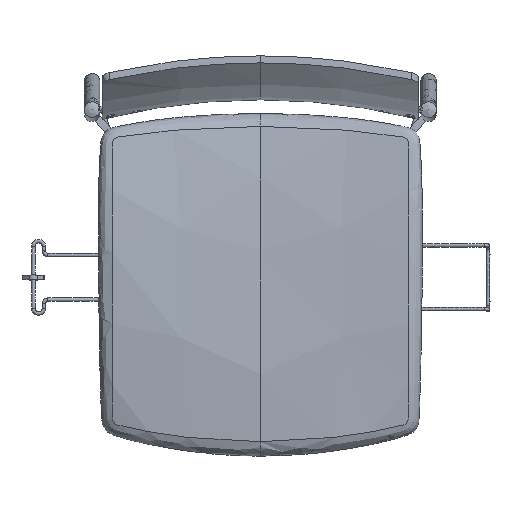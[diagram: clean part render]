
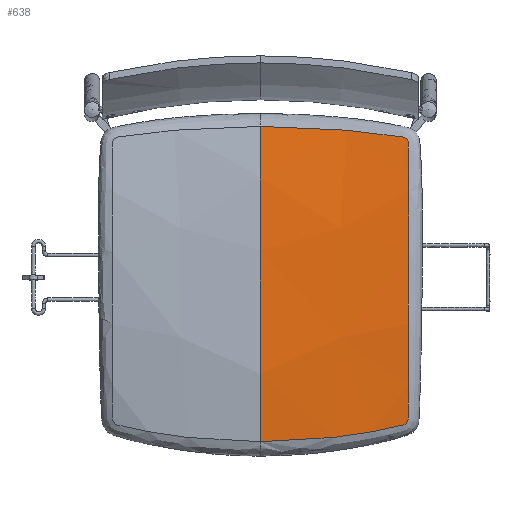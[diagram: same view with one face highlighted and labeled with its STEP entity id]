
A CAD part, top view. The second image highlights one B-rep face of the part: STEP entity #638.
In plain terms, the highlighted free-form (B-spline) face has degree [3, 3] with [6, 5] control points.
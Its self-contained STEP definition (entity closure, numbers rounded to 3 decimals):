
#27=B_SPLINE_SURFACE_WITH_KNOTS('',3,3,((#8044,#8045,#8046,#8047,#8048),
(#8049,#8050,#8051,#8052,#8053),(#8054,#8055,#8056,#8057,#8058),(#8059,
#8060,#8061,#8062,#8063),(#8064,#8065,#8066,#8067,#8068),(#8069,#8070,#8071,
#8072,#8073)),.UNSPECIFIED.,.F.,.F.,.F.,(4,1,1,4),(4,1,4),(0.,150.405,
300.811,451.216),(0.,113.023,226.045),
 .UNSPECIFIED.);
#139=B_SPLINE_CURVE_WITH_KNOTS('',3,(#8672,#8673,#8674,#8675,#8676,#8677),
 .UNSPECIFIED.,.F.,.F.,(4,1,1,4),(14.636,150.405,300.811,
436.736),.UNSPECIFIED.);
#142=B_SPLINE_CURVE_WITH_KNOTS('',3,(#8748,#8749,#8750,#8751,#8752,#8753,
#8754,#8755,#8756,#8757,#8758,#8759,#8760,#8761,#8762,#8763,#8764,#8765,
#8766,#8767,#8768,#8769,#8770,#8771,#8772,#8773,#8774,#8775,#8776,#8777,
#8778,#8779,#8780,#8781,#8782,#8783,#8784,#8785,#8786,#8787,#8788,#8789,
#8790,#8791,#8792,#8793,#8794,#8795,#8796,#8797,#8798,#8799,#8800,#8801,
#8802,#8803,#8804,#8805,#8806,#8807,#8808,#8809,#8810,#8811,#8812,#8813),
 .UNSPECIFIED.,.F.,.F.,(4,2,2,2,1,1,1,2,2,2,2,2,1,1,1,2,2,2,2,2,2,2,2,2,
1,1,1,2,2,2,2,2,1,1,1,2,2,2,4),(-834.547,-732.977,-707.585,
-682.192,-634.077,-631.407,-628.738,
-626.069,-623.399,-620.73,-618.061,
-615.391,-612.722,-610.053,-607.384,
-561.831,-513.608,-489.497,-465.386,
-417.164,-368.942,-344.831,-320.72,
-272.498,-226.987,-224.275,-221.564,
-218.853,-216.141,-213.43,-210.718,
-208.007,-205.295,-202.584,-199.872,
-151.938,-126.615,-101.292,0.),.UNSPECIFIED.);
#638=ADVANCED_FACE('',(#817),#27,.T.);
#817=FACE_OUTER_BOUND('',#1000,.T.);
#1000=EDGE_LOOP('',(#1517,#1518));
#1517=ORIENTED_EDGE('',*,*,#1959,.F.);
#1518=ORIENTED_EDGE('',*,*,#1962,.F.);
#1959=EDGE_CURVE('',#2422,#2421,#139,.T.);
#1962=EDGE_CURVE('',#2421,#2422,#142,.T.);
#2421=VERTEX_POINT('',#8664);
#2422=VERTEX_POINT('',#8665);
#8044=CARTESIAN_POINT('',(222.5,-257.5,447.92));
#8045=CARTESIAN_POINT('',(186.336,-267.419,456.436));
#8046=CARTESIAN_POINT('',(112.582,-282.432,461.217));
#8047=CARTESIAN_POINT('',(37.527,-287.459,461.479));
#8048=CARTESIAN_POINT('',(0.,-287.459,461.479));
#8049=CARTESIAN_POINT('',(222.5,-210.234,456.665));
#8050=CARTESIAN_POINT('',(186.401,-218.252,466.09));
#8051=CARTESIAN_POINT('',(112.677,-230.383,469.207));
#8052=CARTESIAN_POINT('',(37.559,-234.444,468.909));
#8053=CARTESIAN_POINT('',(0.,-234.444,468.909));
#8054=CARTESIAN_POINT('',(222.5,-115.677,460.522));
#8055=CARTESIAN_POINT('',(186.531,-119.935,467.649));
#8056=CARTESIAN_POINT('',(112.867,-126.362,463.263));
#8057=CARTESIAN_POINT('',(37.622,-128.511,461.788));
#8058=CARTESIAN_POINT('',(0.,-128.511,461.788));
#8059=CARTESIAN_POINT('',(222.5,26.117,455.406));
#8060=CARTESIAN_POINT('',(186.726,27.366,458.741));
#8061=CARTESIAN_POINT('',(113.151,29.293,448.584));
#8062=CARTESIAN_POINT('',(37.717,29.944,445.172));
#8063=CARTESIAN_POINT('',(0.,29.944,445.172));
#8064=CARTESIAN_POINT('',(222.5,120.418,444.736));
#8065=CARTESIAN_POINT('',(186.856,125.229,445.319));
#8066=CARTESIAN_POINT('',(113.341,132.56,434.981));
#8067=CARTESIAN_POINT('',(37.78,135.024,430.165));
#8068=CARTESIAN_POINT('',(0.,135.024,430.165));
#8069=CARTESIAN_POINT('',(222.5,167.5,432.588));
#8070=CARTESIAN_POINT('',(186.92,174.063,429.741));
#8071=CARTESIAN_POINT('',(113.436,184.054,417.229));
#8072=CARTESIAN_POINT('',(37.812,187.409,411.683));
#8073=CARTESIAN_POINT('',(0.,187.409,411.683));
#8664=CARTESIAN_POINT('',(0.,172.275,416.725));
#8665=CARTESIAN_POINT('',(0.,-271.984,463.345));
#8672=CARTESIAN_POINT('',(0.,-271.984,463.345));
#8673=CARTESIAN_POINT('',(0.,-224.136,468.206));
#8674=CARTESIAN_POINT('',(0.,-123.372,461.249));
#8675=CARTESIAN_POINT('',(0.,24.859,445.705));
#8676=CARTESIAN_POINT('',(0.,124.906,431.601));
#8677=CARTESIAN_POINT('',(0.,172.275,416.725));
#8748=CARTESIAN_POINT('',(0.,172.275,416.725));
#8749=CARTESIAN_POINT('',(33.428,172.274,416.725));
#8750=CARTESIAN_POINT('',(66.833,171.067,418.808));
#8751=CARTESIAN_POINT('',(108.273,168.045,423.155));
#8752=CARTESIAN_POINT('',(116.546,167.365,424.119));
#8753=CARTESIAN_POINT('',(133.064,165.851,426.169));
#8754=CARTESIAN_POINT('',(141.303,165.018,427.245));
#8755=CARTESIAN_POINT('',(165.179,162.377,430.343));
#8756=CARTESIAN_POINT('',(181.515,160.261,432.451));
#8757=CARTESIAN_POINT('',(199.038,157.674,434.137));
#8758=CARTESIAN_POINT('',(200.949,157.297,434.337));
#8759=CARTESIAN_POINT('',(202.303,156.803,434.534));
#8760=CARTESIAN_POINT('',(203.554,156.216,434.745));
#8761=CARTESIAN_POINT('',(204.158,155.865,434.863));
#8762=CARTESIAN_POINT('',(205.273,155.048,435.12));
#8763=CARTESIAN_POINT('',(205.785,154.581,435.26));
#8764=CARTESIAN_POINT('',(206.691,153.546,435.555));
#8765=CARTESIAN_POINT('',(207.084,152.978,435.71));
#8766=CARTESIAN_POINT('',(207.737,151.775,436.029));
#8767=CARTESIAN_POINT('',(207.999,151.137,436.193));
#8768=CARTESIAN_POINT('',(208.399,149.838,436.519));
#8769=CARTESIAN_POINT('',(208.689,148.451,436.857));
#8770=CARTESIAN_POINT('',(208.776,146.557,437.302));
#8771=CARTESIAN_POINT('',(208.742,129.822,441.126));
#8772=CARTESIAN_POINT('',(208.749,114.125,444.006));
#8773=CARTESIAN_POINT('',(208.73,83.211,448.722));
#8774=CARTESIAN_POINT('',(208.724,67.267,450.629));
#8775=CARTESIAN_POINT('',(208.712,43.289,453.027));
#8776=CARTESIAN_POINT('',(208.709,35.291,453.748));
#8777=CARTESIAN_POINT('',(208.701,19.285,455.088));
#8778=CARTESIAN_POINT('',(208.697,11.276,455.707));
#8779=CARTESIAN_POINT('',(208.686,-12.757,457.414));
#8780=CARTESIAN_POINT('',(208.678,-28.794,458.35));
#8781=CARTESIAN_POINT('',(208.663,-60.887,459.815));
#8782=CARTESIAN_POINT('',(208.656,-76.942,460.344));
#8783=CARTESIAN_POINT('',(208.644,-101.031,460.833));
#8784=CARTESIAN_POINT('',(208.641,-109.063,460.945));
#8785=CARTESIAN_POINT('',(208.633,-125.124,461.068));
#8786=CARTESIAN_POINT('',(208.629,-133.157,461.078));
#8787=CARTESIAN_POINT('',(208.618,-157.252,460.877));
#8788=CARTESIAN_POINT('',(208.609,-173.304,460.433));
#8789=CARTESIAN_POINT('',(208.599,-204.505,458.545));
#8790=CARTESIAN_POINT('',(208.578,-220.395,457.101));
#8791=CARTESIAN_POINT('',(208.596,-237.426,454.773));
#8792=CARTESIAN_POINT('',(208.506,-239.362,454.519));
#8793=CARTESIAN_POINT('',(208.218,-240.795,454.378));
#8794=CARTESIAN_POINT('',(207.826,-242.142,454.27));
#8795=CARTESIAN_POINT('',(207.57,-242.807,454.23));
#8796=CARTESIAN_POINT('',(206.935,-244.072,454.185));
#8797=CARTESIAN_POINT('',(206.555,-244.674,454.18));
#8798=CARTESIAN_POINT('',(205.68,-245.787,454.206));
#8799=CARTESIAN_POINT('',(205.185,-246.298,454.238));
#8800=CARTESIAN_POINT('',(204.107,-247.21,454.334));
#8801=CARTESIAN_POINT('',(203.522,-247.613,454.4));
#8802=CARTESIAN_POINT('',(202.306,-248.306,454.554));
#8803=CARTESIAN_POINT('',(200.982,-248.912,454.74));
#8804=CARTESIAN_POINT('',(199.118,-249.435,455.046));
#8805=CARTESIAN_POINT('',(181.911,-253.338,457.888));
#8806=CARTESIAN_POINT('',(165.65,-256.584,459.503));
#8807=CARTESIAN_POINT('',(141.78,-260.666,461.076));
#8808=CARTESIAN_POINT('',(133.518,-261.96,461.471));
#8809=CARTESIAN_POINT('',(116.939,-264.316,462.095));
#8810=CARTESIAN_POINT('',(108.632,-265.377,462.33));
#8811=CARTESIAN_POINT('',(67.022,-270.093,463.307));
#8812=CARTESIAN_POINT('',(33.509,-271.984,463.344));
#8813=CARTESIAN_POINT('',(0.,-271.984,463.345));
